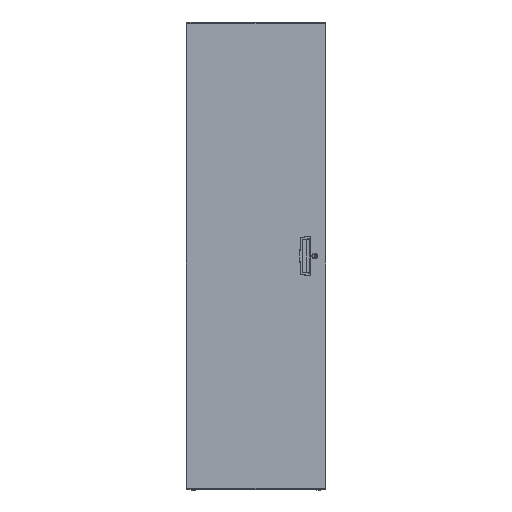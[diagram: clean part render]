
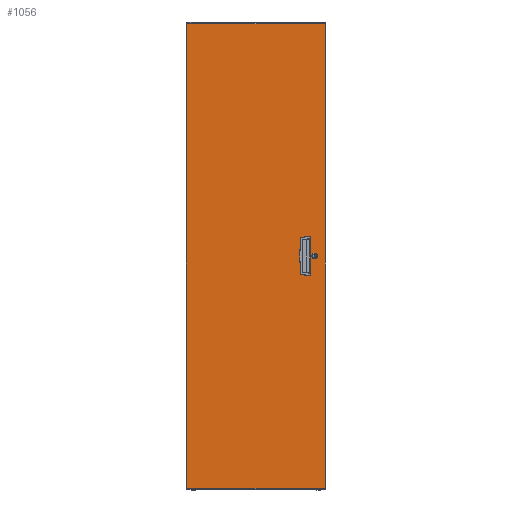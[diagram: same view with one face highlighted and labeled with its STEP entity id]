
A CAD part, top view. The second image highlights one B-rep face of the part: STEP entity #1056.
In plain terms, the highlighted planar face has unit normal (0, 0, 1).
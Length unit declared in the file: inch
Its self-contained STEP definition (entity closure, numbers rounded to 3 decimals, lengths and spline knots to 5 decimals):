
#1=DIRECTION('',(0.,-1.,0.));
#2=VECTOR('',#1,5.2);
#3=CARTESIAN_POINT('',(7.8275,2.6,0.));
#4=LINE('',#3,#2);
#5=DIRECTION('',(1.,0.,0.));
#6=VECTOR('',#5,1.21);
#7=CARTESIAN_POINT('',(6.6175,2.6,0.));
#8=LINE('',#7,#6);
#9=DIRECTION('',(0.,1.,0.));
#10=VECTOR('',#9,5.2);
#11=CARTESIAN_POINT('',(6.6175,-2.6,0.));
#12=LINE('',#11,#10);
#13=DIRECTION('',(-1.,0.,0.));
#14=VECTOR('',#13,1.21);
#15=CARTESIAN_POINT('',(7.8275,-2.6,0.));
#16=LINE('',#15,#14);
#17=CARTESIAN_POINT('',(8.5975,0.,0.));
#18=DIRECTION('',(0.,0.,1.));
#19=DIRECTION('',(0.521,-0.853,0.));
#20=AXIS2_PLACEMENT_3D('',#17,#18,#19);
#22=DIRECTION('',(1.,0.,0.));
#23=VECTOR('',#22,0.39102);
#24=CARTESIAN_POINT('',(8.40199,0.32,0.));
#25=LINE('',#24,#23);
#26=CARTESIAN_POINT('',(8.5975,0.,0.));
#27=DIRECTION('',(0.,0.,1.));
#28=DIRECTION('',(-0.521,0.853,0.));
#29=AXIS2_PLACEMENT_3D('',#26,#27,#28);
#31=DIRECTION('',(-1.,0.,0.));
#32=VECTOR('',#31,0.39102);
#33=CARTESIAN_POINT('',(8.79301,-0.32,0.));
#34=LINE('',#33,#32);
#46=DIRECTION('',(0.,-1.,0.));
#47=VECTOR('',#46,67.876);
#48=CARTESIAN_POINT('',(10.0785,33.938,0.));
#49=LINE('',#48,#47);
#150=DIRECTION('',(1.,0.,0.));
#151=VECTOR('',#150,20.157);
#152=CARTESIAN_POINT('',(-10.0785,33.938,0.));
#153=LINE('',#152,#151);
#173=DIRECTION('',(0.,1.,0.));
#174=VECTOR('',#173,67.876);
#175=CARTESIAN_POINT('',(-10.0785,-33.938,0.));
#176=LINE('',#175,#174);
#221=DIRECTION('',(-1.,0.,0.));
#222=VECTOR('',#221,20.157);
#223=CARTESIAN_POINT('',(10.0785,-33.938,0.));
#224=LINE('',#223,#222);
#821=CARTESIAN_POINT('',(-10.0785,33.938,0.));
#822=CARTESIAN_POINT('',(10.0785,33.938,0.));
#823=VERTEX_POINT('',#821);
#824=VERTEX_POINT('',#822);
#837=CARTESIAN_POINT('',(10.0785,-33.938,0.));
#838=CARTESIAN_POINT('',(-10.0785,-33.938,0.));
#839=VERTEX_POINT('',#837);
#840=VERTEX_POINT('',#838);
#909=CARTESIAN_POINT('',(7.8275,2.6,0.));
#910=CARTESIAN_POINT('',(7.8275,-2.6,0.));
#911=VERTEX_POINT('',#909);
#912=VERTEX_POINT('',#910);
#913=CARTESIAN_POINT('',(6.6175,-2.6,0.));
#914=VERTEX_POINT('',#913);
#915=CARTESIAN_POINT('',(6.6175,2.6,0.));
#916=VERTEX_POINT('',#915);
#917=CARTESIAN_POINT('',(8.79301,-0.32,0.));
#918=CARTESIAN_POINT('',(8.79301,0.32,0.));
#919=VERTEX_POINT('',#917);
#920=VERTEX_POINT('',#918);
#921=CARTESIAN_POINT('',(8.40199,-0.32,0.));
#922=VERTEX_POINT('',#921);
#923=CARTESIAN_POINT('',(8.40199,0.32,0.));
#924=VERTEX_POINT('',#923);
#1021=CARTESIAN_POINT('',(0.,0.,0.));
#1022=DIRECTION('',(0.,0.,1.));
#1023=DIRECTION('',(1.,0.,0.));
#1024=AXIS2_PLACEMENT_3D('',#1021,#1022,#1023);
#1025=PLANE('',#1024);
#1027=ORIENTED_EDGE('',*,*,#1026,.T.);
#1029=ORIENTED_EDGE('',*,*,#1028,.T.);
#1031=ORIENTED_EDGE('',*,*,#1030,.T.);
#1033=ORIENTED_EDGE('',*,*,#1032,.T.);
#1034=EDGE_LOOP('',(#1027,#1029,#1031,#1033));
#1035=FACE_OUTER_BOUND('',#1034,.F.);
#1037=ORIENTED_EDGE('',*,*,#1036,.F.);
#1039=ORIENTED_EDGE('',*,*,#1038,.F.);
#1041=ORIENTED_EDGE('',*,*,#1040,.F.);
#1043=ORIENTED_EDGE('',*,*,#1042,.F.);
#1044=EDGE_LOOP('',(#1037,#1039,#1041,#1043));
#1045=FACE_BOUND('',#1044,.F.);
#1047=ORIENTED_EDGE('',*,*,#1046,.T.);
#1049=ORIENTED_EDGE('',*,*,#1048,.F.);
#1051=ORIENTED_EDGE('',*,*,#1050,.T.);
#1053=ORIENTED_EDGE('',*,*,#1052,.F.);
#1054=EDGE_LOOP('',(#1047,#1049,#1051,#1053));
#1055=FACE_BOUND('',#1054,.F.);
#1056=ADVANCED_FACE('',(#1035,#1045,#1055),#1025,.T.);
#21=CIRCLE('',#20,0.375);
#30=CIRCLE('',#29,0.375);
#1026=EDGE_CURVE('',#824,#839,#49,.T.);
#1028=EDGE_CURVE('',#839,#840,#224,.T.);
#1030=EDGE_CURVE('',#840,#823,#176,.T.);
#1032=EDGE_CURVE('',#823,#824,#153,.T.);
#1036=EDGE_CURVE('',#911,#912,#4,.T.);
#1038=EDGE_CURVE('',#916,#911,#8,.T.);
#1040=EDGE_CURVE('',#914,#916,#12,.T.);
#1042=EDGE_CURVE('',#912,#914,#16,.T.);
#1046=EDGE_CURVE('',#919,#920,#21,.T.);
#1048=EDGE_CURVE('',#924,#920,#25,.T.);
#1050=EDGE_CURVE('',#924,#922,#30,.T.);
#1052=EDGE_CURVE('',#919,#922,#34,.T.);
